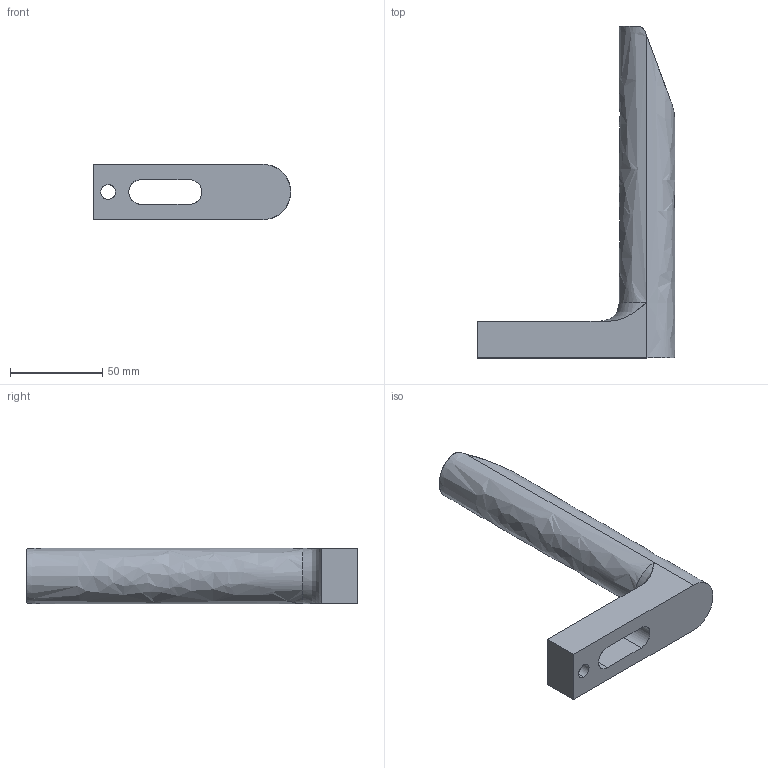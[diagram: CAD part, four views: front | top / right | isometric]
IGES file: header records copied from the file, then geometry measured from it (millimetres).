
Start section: START RECORD GO HERE.
Global section: file name: 702-6.igs; native system: DASSAULT SYSTEMES CATIA V5 R20 - www.3ds.com; preprocessor: CATIA Version 5 Release 20 ; author: Utente; organization: NB04-ASUS; date: 20200410.173602; units: millimetre
Bounding box: 107 x 180 x 30 mm (x, y, z)
Surface area: 26989.9 mm2 (no closed solid volume)
Topology: 0 solids, 0 shells, 18 faces, 104 edges, 104 vertices
Faces by surface type: revolution 9, plane 9
